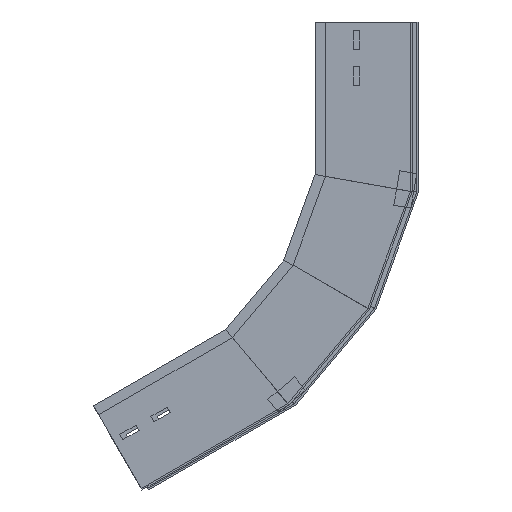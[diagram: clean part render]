
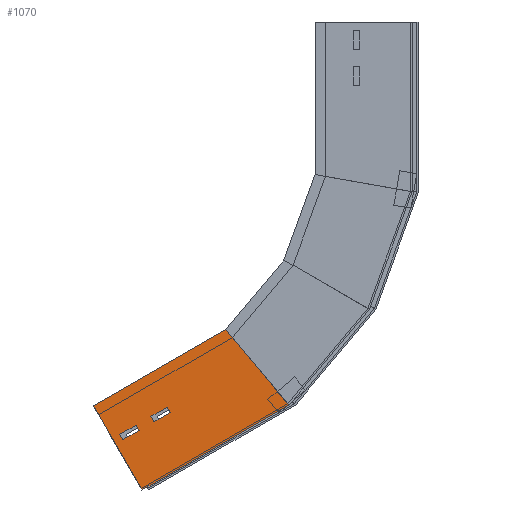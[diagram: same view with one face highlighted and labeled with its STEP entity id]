
A CAD part, left-side view. The second image highlights one B-rep face of the part: STEP entity #1070.
In plain terms, the highlighted planar face has unit normal (-1, 0, 0) as drawn and (1, 0, 0) by its records, which use the part's own axes.
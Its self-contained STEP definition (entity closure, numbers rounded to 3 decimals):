
#6 = FACE_BOUND ( 'NONE', #1340, .T. ) ;
#21 = DIRECTION ( 'NONE',  ( 0., 1., 0. ) ) ;
#22 = VECTOR ( 'NONE', #971, 1000. ) ;
#36 = EDGE_CURVE ( 'NONE', #304, #347, #1264, .T. ) ;
#41 = DIRECTION ( 'NONE',  ( -1., 0., 0. ) ) ;
#49 = VECTOR ( 'NONE', #1279, 1000. ) ;
#53 = EDGE_CURVE ( 'NONE', #550, #1233, #1533, .T. ) ;
#63 = CARTESIAN_POINT ( 'NONE',  ( 0., 68.5, -51.505 ) ) ;
#74 = CARTESIAN_POINT ( 'NONE',  ( 0., 68.5, -51.505 ) ) ;
#79 = VERTEX_POINT ( 'NONE', #1000 ) ;
#81 = EDGE_CURVE ( 'NONE', #745, #390, #1126, .T. ) ;
#98 = CARTESIAN_POINT ( 'NONE',  ( 0., 112.5, -176.763 ) ) ;
#99 = DIRECTION ( 'NONE',  ( 0., 1., 0. ) ) ;
#111 = ORIENTED_EDGE ( 'NONE', *, *, #875, .T. ) ;
#117 = CARTESIAN_POINT ( 'NONE',  ( 0., 68.5, -73.505 ) ) ;
#123 = DIRECTION ( 'NONE',  ( 0., -1., 0. ) ) ;
#129 = CARTESIAN_POINT ( 'NONE',  ( 0., 61.5, -51.505 ) ) ;
#172 = EDGE_CURVE ( 'NONE', #79, #830, #517, .T. ) ;
#175 = CARTESIAN_POINT ( 'NONE',  ( 0., 0., 0. ) ) ;
#185 = CARTESIAN_POINT ( 'NONE',  ( 0., 33.621, -190.672 ) ) ;
#211 = EDGE_CURVE ( 'NONE', #1105, #745, #657, .T. ) ;
#212 = ORIENTED_EDGE ( 'NONE', *, *, #1610, .T. ) ;
#221 = CARTESIAN_POINT ( 'NONE',  ( 0., 68.5, -73.505 ) ) ;
#225 = EDGE_CURVE ( 'NONE', #1239, #550, #846, .T. ) ;
#231 = ORIENTED_EDGE ( 'NONE', *, *, #172, .T. ) ;
#239 = CARTESIAN_POINT ( 'NONE',  ( 0., 68.5, -9.835 ) ) ;
#249 = DIRECTION ( 'NONE',  ( 0., -1., 0. ) ) ;
#264 = ORIENTED_EDGE ( 'NONE', *, *, #81, .F. ) ;
#304 = VERTEX_POINT ( 'NONE', #1223 ) ;
#322 = VECTOR ( 'NONE', #778, 1000. ) ;
#347 = VERTEX_POINT ( 'NONE', #239 ) ;
#355 = ORIENTED_EDGE ( 'NONE', *, *, #36, .T. ) ;
#358 = CARTESIAN_POINT ( 'NONE',  ( 0., 68.5, -9.835 ) ) ;
#372 = LINE ( 'NONE', #1423, #322 ) ;
#390 = VERTEX_POINT ( 'NONE', #98 ) ;
#416 = CARTESIAN_POINT ( 'NONE',  ( 0., 61.5, -73.505 ) ) ;
#419 = ORIENTED_EDGE ( 'NONE', *, *, #1411, .T. ) ;
#505 = VECTOR ( 'NONE', #21, 1000. ) ;
#506 = CARTESIAN_POINT ( 'NONE',  ( 0., 0., -196.6 ) ) ;
#517 = LINE ( 'NONE', #1045, #811 ) ;
#530 = AXIS2_PLACEMENT_3D ( 'NONE', #175, #41, #1583 ) ;
#536 = PLANE ( 'NONE',  #530 ) ;
#547 = CARTESIAN_POINT ( 'NONE',  ( 0., 68.5, -51.505 ) ) ;
#550 = VERTEX_POINT ( 'NONE', #221 ) ;
#562 = CARTESIAN_POINT ( 'NONE',  ( 0., 61.5, -51.505 ) ) ;
#601 = VECTOR ( 'NONE', #976, 1000. ) ;
#602 = CARTESIAN_POINT ( 'NONE',  ( 0., 112.5, 0. ) ) ;
#612 = VERTEX_POINT ( 'NONE', #129 ) ;
#645 = CARTESIAN_POINT ( 'NONE',  ( 0., 0., 0. ) ) ;
#657 = LINE ( 'NONE', #1177, #505 ) ;
#661 = FACE_OUTER_BOUND ( 'NONE', #1515, .T. ) ;
#666 = VERTEX_POINT ( 'NONE', #506 ) ;
#745 = VERTEX_POINT ( 'NONE', #1174 ) ;
#760 = CARTESIAN_POINT ( 'NONE',  ( 0., 68.5, -9.835 ) ) ;
#778 = DIRECTION ( 'NONE',  ( 0., 0., -1. ) ) ;
#803 = ORIENTED_EDGE ( 'NONE', *, *, #1585, .T. ) ;
#811 = VECTOR ( 'NONE', #123, 1000. ) ;
#826 = LINE ( 'NONE', #185, #1290 ) ;
#830 = VERTEX_POINT ( 'NONE', #1211 ) ;
#834 = VECTOR ( 'NONE', #1387, 1000. ) ;
#846 = LINE ( 'NONE', #63, #601 ) ;
#865 = EDGE_CURVE ( 'NONE', #390, #666, #826, .T. ) ;
#875 = EDGE_CURVE ( 'NONE', #830, #304, #1159, .T. ) ;
#884 = CARTESIAN_POINT ( 'NONE',  ( 0., 61.5, -9.835 ) ) ;
#971 = DIRECTION ( 'NONE',  ( 0., 1., 0. ) ) ;
#976 = DIRECTION ( 'NONE',  ( 0., 0., -1. ) ) ;
#983 = ORIENTED_EDGE ( 'NONE', *, *, #1346, .T. ) ;
#1000 = CARTESIAN_POINT ( 'NONE',  ( 0., 68.5, -31.835 ) ) ;
#1045 = CARTESIAN_POINT ( 'NONE',  ( 0., 68.5, -31.835 ) ) ;
#1070 = ADVANCED_FACE ( 'NONE', ( #1462, #661, #6 ), #536, .F. ) ;
#1105 = VERTEX_POINT ( 'NONE', #645 ) ;
#1126 = LINE ( 'NONE', #602, #1345 ) ;
#1147 = LINE ( 'NONE', #760, #49 ) ;
#1159 = LINE ( 'NONE', #884, #834 ) ;
#1174 = CARTESIAN_POINT ( 'NONE',  ( 0., 112.5, 0. ) ) ;
#1175 = ORIENTED_EDGE ( 'NONE', *, *, #225, .T. ) ;
#1177 = CARTESIAN_POINT ( 'NONE',  ( 0., 0., 0. ) ) ;
#1211 = CARTESIAN_POINT ( 'NONE',  ( 0., 61.5, -31.835 ) ) ;
#1223 = CARTESIAN_POINT ( 'NONE',  ( 0., 61.5, -9.835 ) ) ;
#1233 = VERTEX_POINT ( 'NONE', #416 ) ;
#1239 = VERTEX_POINT ( 'NONE', #74 ) ;
#1264 = LINE ( 'NONE', #358, #1494 ) ;
#1279 = DIRECTION ( 'NONE',  ( 0., 0., -1. ) ) ;
#1283 = ORIENTED_EDGE ( 'NONE', *, *, #53, .T. ) ;
#1290 = VECTOR ( 'NONE', #1646, 1000. ) ;
#1292 = VECTOR ( 'NONE', #1608, 1000. ) ;
#1340 = EDGE_LOOP ( 'NONE', ( #355, #983, #231, #111 ) ) ;
#1343 = LINE ( 'NONE', #547, #22 ) ;
#1345 = VECTOR ( 'NONE', #1644, 1000. ) ;
#1346 = EDGE_CURVE ( 'NONE', #347, #79, #1147, .T. ) ;
#1387 = DIRECTION ( 'NONE',  ( 0., 0., 1. ) ) ;
#1411 = EDGE_CURVE ( 'NONE', #1105, #666, #372, .T. ) ;
#1423 = CARTESIAN_POINT ( 'NONE',  ( 0., 0., 0. ) ) ;
#1427 = VECTOR ( 'NONE', #249, 1000. ) ;
#1462 = FACE_BOUND ( 'NONE', #1525, .T. ) ;
#1463 = LINE ( 'NONE', #562, #1292 ) ;
#1494 = VECTOR ( 'NONE', #99, 1000. ) ;
#1515 = EDGE_LOOP ( 'NONE', ( #264, #1659, #419, #1619 ) ) ;
#1525 = EDGE_LOOP ( 'NONE', ( #803, #1175, #1283, #212 ) ) ;
#1533 = LINE ( 'NONE', #117, #1427 ) ;
#1583 = DIRECTION ( 'NONE',  ( 0., 0., 1. ) ) ;
#1585 = EDGE_CURVE ( 'NONE', #612, #1239, #1343, .T. ) ;
#1608 = DIRECTION ( 'NONE',  ( 0., 0., 1. ) ) ;
#1610 = EDGE_CURVE ( 'NONE', #1233, #612, #1463, .T. ) ;
#1619 = ORIENTED_EDGE ( 'NONE', *, *, #865, .F. ) ;
#1644 = DIRECTION ( 'NONE',  ( 0., 0., -1. ) ) ;
#1646 = DIRECTION ( 'NONE',  ( 0., -0.985, -0.174 ) ) ;
#1659 = ORIENTED_EDGE ( 'NONE', *, *, #211, .F. ) ;
